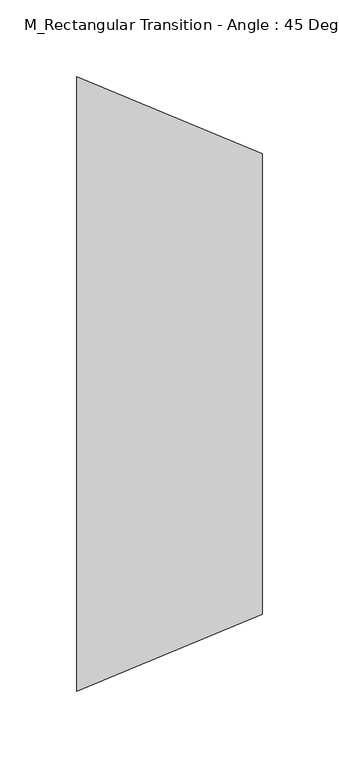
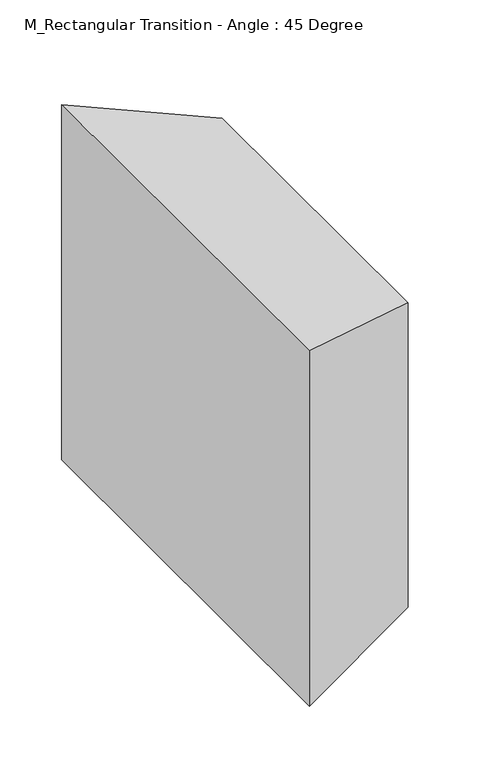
"""IFC4 building model written with IfcOpenShell, lengths in millimetres: duct fitting geometry, M_Rectangular Transition - Angle : 45 Degree."""

from ifc_helpers import new_model, si_unit, origin, place, context, project, spatial, faceted_brep, source, transform, mapped, element, save


def m_rectangular_transition_angle_45_degree_daf29b35(model_context):
    return source(origin(), model_context, "Body", "Brep", [
        faceted_brep([(120.7106781, -150.0, 150.0), (120.7106781, -150.0, -150.0), (120.7106781, 150.0, -150.0), (120.7106781, 150.0, 150.0), (0.0, -200.0, 175.0), (0.0, 200.0, 175.0), (0.0, 200.0, -175.0), (0.0, -200.0, -175.0)], [[[0, 1, 2, 3]], [[4, 5, 6, 7]], [[4, 7, 1, 0]], [[7, 6, 2, 1]], [[6, 5, 3, 2]], [[5, 4, 0, 3]]]),
        faceted_brep([(120.7106781, -150.0, 150.0), (120.7106781, -150.0, -150.0), (120.7106781, 150.0, -150.0), (120.7106781, 150.0, 150.0), (0.0, -200.0, 175.0), (0.0, 200.0, 175.0), (0.0, 200.0, -175.0), (0.0, -200.0, -175.0)], [[[0, 1, 2, 3]], [[4, 5, 6, 7]], [[4, 7, 1, 0]], [[7, 6, 2, 1]], [[6, 5, 3, 2]], [[5, 4, 0, 3]]]),
        faceted_brep([(120.7106781, -150.0, 150.0), (120.7106781, -150.0, -150.0), (120.7106781, 150.0, -150.0), (120.7106781, 150.0, 150.0), (0.0, -200.0, 175.0), (0.0, 200.0, 175.0), (0.0, 200.0, -175.0), (0.0, -200.0, -175.0)], [[[0, 1, 2, 3]], [[4, 5, 6, 7]], [[4, 7, 1, 0]], [[7, 6, 2, 1]], [[6, 5, 3, 2]], [[5, 4, 0, 3]]]),
    ])


if __name__ == "__main__":
    model = new_model("IFC4")
    model_context = context("Model", 3, world=origin())
    ifc_project = project(units=[si_unit("LENGTHUNIT", "METRE", prefix="MILLI")], contexts=[model_context])
    site = spatial("IfcSite", under=ifc_project)
    building = spatial("IfcBuilding", under=site)
    placement = place(None, origin())
    m_rectangular_transition_angle_45_degree_shape = m_rectangular_transition_angle_45_degree_daf29b35(model_context)
    element("IfcDuctFitting", 1, ObjectType="M_Rectangular Transition - Angle : 45 Degree", at=placement, inside=building, context=model_context, shape_type="MappedRepresentation", body=[
        mapped(m_rectangular_transition_angle_45_degree_shape, transform((0.0, 0.0, 0.0), x_axis=(1.0, 0.0, 0.0), y_axis=(0.0, 1.0, 0.0), z_axis=(0.0, 0.0, 1.0))),
    ])
    save(model, "model.ifc")
